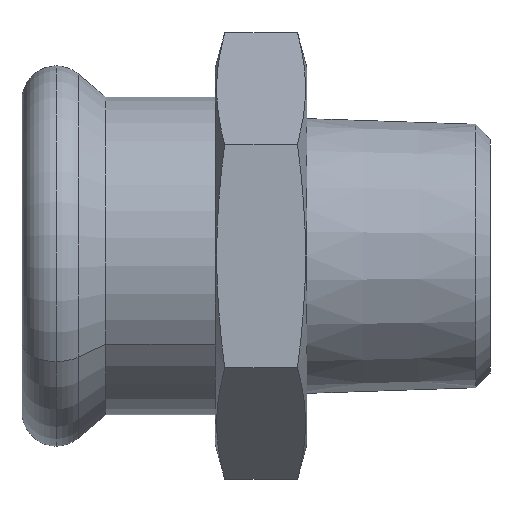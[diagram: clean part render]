
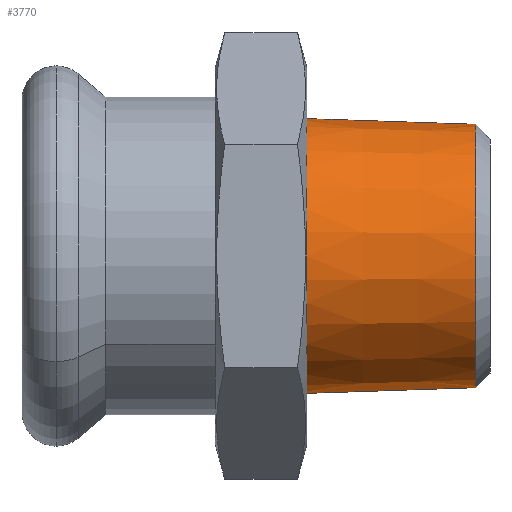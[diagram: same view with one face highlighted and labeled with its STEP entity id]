
A CAD part, front view. The second image highlights one B-rep face of the part: STEP entity #3770.
In plain terms, the highlighted conical face has half-angle 1.909 degrees and reference radius 13.5 mm.
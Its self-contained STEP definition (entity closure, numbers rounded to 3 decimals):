
#3360=CARTESIAN_POINT('',(-69.571,-198.006,
0.));
#3370=DIRECTION('',(-1.,0.,0.));
#3380=DIRECTION('',(0.,0.,1.));
#3390=AXIS2_PLACEMENT_3D('',#3360,#3370,#3380);
#3400=CONICAL_SURFACE('',#3390,13.5,0.033);
#3410=CARTESIAN_POINT('',(-69.571,-198.006,-13.5));
#3420=DIRECTION('',(-0.999,0.,-0.033));
#3430=VECTOR('',#3420,405.225);
#3440=LINE('',#3410,#3430);
#3450=CARTESIAN_POINT('',(-52.97,-198.006,
-12.947));
#3460=VERTEX_POINT('',#3450);
#3470=CARTESIAN_POINT('',(-69.571,-198.006,-13.5));
#3480=VERTEX_POINT('',#3470);
#3490=EDGE_CURVE('',#3460,#3480,#3440,.T.);
#3500=ORIENTED_EDGE('',*,*,#3490,.F.);
#3510=CARTESIAN_POINT('',(-69.571,-198.006,
0.));
#3520=DIRECTION('',(-1.,0.,0.));
#3530=DIRECTION('',(0.,0.,1.));
#3540=AXIS2_PLACEMENT_3D('',#3510,#3520,#3530);
#3550=CIRCLE('',#3540,13.5);
#3560=CARTESIAN_POINT('',(-69.571,-198.006,13.5));
#3570=VERTEX_POINT('',#3560);
#3580=EDGE_CURVE('',#3480,#3570,#3550,.T.);
#3590=ORIENTED_EDGE('',*,*,#3580,.F.);
#3600=CARTESIAN_POINT('',(-69.571,-198.006,13.5));
#3610=DIRECTION('',(-0.999,0.,0.033));
#3620=VECTOR('',#3610,405.225);
#3630=LINE('',#3600,#3620);
#3640=CARTESIAN_POINT('',(-52.97,-198.006,12.947
));
#3650=VERTEX_POINT('',#3640);
#3660=EDGE_CURVE('',#3650,#3570,#3630,.T.);
#3670=ORIENTED_EDGE('',*,*,#3660,.T.);
#3680=CARTESIAN_POINT('',(-52.97,-198.006,
0.));
#3690=DIRECTION('',(-1.,0.,0.));
#3700=DIRECTION('',(0.,0.,1.));
#3710=AXIS2_PLACEMENT_3D('',#3680,#3690,#3700);
#3720=CIRCLE('',#3710,12.947);
#3730=EDGE_CURVE('',#3460,#3650,#3720,.T.);
#3740=ORIENTED_EDGE('',*,*,#3730,.T.);
#3750=EDGE_LOOP('',(#3740,#3670,#3590,#3500));
#3760=FACE_OUTER_BOUND('',#3750,.T.);
#3770=ADVANCED_FACE('',(#3760),#3400,.T.);
